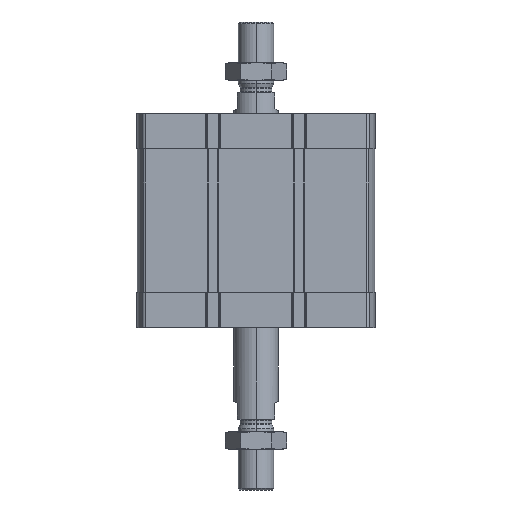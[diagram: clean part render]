
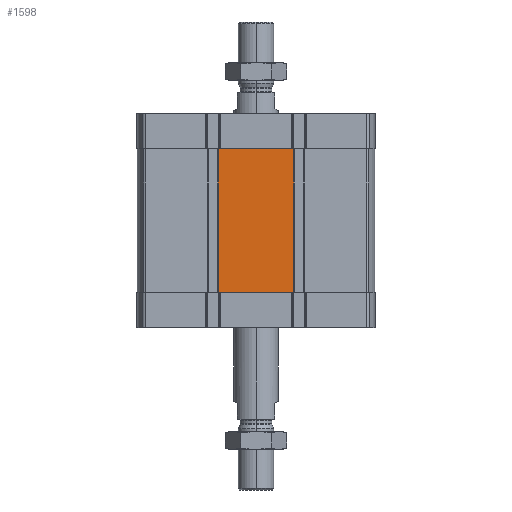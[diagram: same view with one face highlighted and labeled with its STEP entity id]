
A CAD part, left-side view. The second image highlights one B-rep face of the part: STEP entity #1598.
In plain terms, the highlighted planar face has unit normal (-1, 0, 0).
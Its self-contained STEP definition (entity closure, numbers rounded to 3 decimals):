
#43 = DIRECTION ( 'NONE',  ( 0., -1., 0. ) ) ;
#126 = EDGE_LOOP ( 'NONE', ( #3457, #10303, #18563, #12922, #2694, #9074, #15855, #17210 ) ) ;
#642 = LINE ( 'NONE', #6690, #17569 ) ;
#707 = LINE ( 'NONE', #18736, #4072 ) ;
#1169 = CARTESIAN_POINT ( 'NONE',  ( -67., 67., -20. ) ) ;
#1262 = VERTEX_POINT ( 'NONE', #11498 ) ;
#1598 = ADVANCED_FACE ( 'NONE', ( #18802 ), #2484, .T. ) ;
#1694 = EDGE_CURVE ( 'NONE', #2770, #1262, #17624, .T. ) ;
#2373 = DIRECTION ( 'NONE',  ( -1., 0., 0. ) ) ;
#2484 = PLANE ( 'NONE',  #17750 ) ;
#2694 = ORIENTED_EDGE ( 'NONE', *, *, #16303, .T. ) ;
#2770 = VERTEX_POINT ( 'NONE', #16732 ) ;
#2820 = LINE ( 'NONE', #13401, #17633 ) ;
#2863 = CARTESIAN_POINT ( 'NONE',  ( -67., -20.687, -20. ) ) ;
#3457 = ORIENTED_EDGE ( 'NONE', *, *, #12193, .F. ) ;
#3994 = LINE ( 'NONE', #16079, #4344 ) ;
#4072 = VECTOR ( 'NONE', #15766, 1000. ) ;
#4144 = VERTEX_POINT ( 'NONE', #17494 ) ;
#4261 = EDGE_CURVE ( 'NONE', #14269, #17215, #707, .T. ) ;
#4312 = VECTOR ( 'NONE', #5727, 1000. ) ;
#4344 = VECTOR ( 'NONE', #14677, 1000. ) ;
#4357 = CARTESIAN_POINT ( 'NONE',  ( -67., -21.3, -101. ) ) ;
#5352 = CARTESIAN_POINT ( 'NONE',  ( -67., 67., -101. ) ) ;
#5727 = DIRECTION ( 'NONE',  ( 0., -1., 0. ) ) ;
#5879 = DIRECTION ( 'NONE',  ( 0., -1., 0. ) ) ;
#6366 = CARTESIAN_POINT ( 'NONE',  ( -67., 67., -101. ) ) ;
#6690 = CARTESIAN_POINT ( 'NONE',  ( -67., 21.3, -101. ) ) ;
#7698 = EDGE_CURVE ( 'NONE', #4144, #14269, #14576, .T. ) ;
#8281 = VECTOR ( 'NONE', #9718, 1000. ) ;
#8750 = DIRECTION ( 'NONE',  ( 0., 0., 1. ) ) ;
#9074 = ORIENTED_EDGE ( 'NONE', *, *, #4261, .F. ) ;
#9463 = VERTEX_POINT ( 'NONE', #19411 ) ;
#9695 = VECTOR ( 'NONE', #43, 1000. ) ;
#9718 = DIRECTION ( 'NONE',  ( 0., -1., 0. ) ) ;
#10303 = ORIENTED_EDGE ( 'NONE', *, *, #1694, .T. ) ;
#10742 = VERTEX_POINT ( 'NONE', #15924 ) ;
#11498 = CARTESIAN_POINT ( 'NONE',  ( -67., 20.687, -101. ) ) ;
#11847 = LINE ( 'NONE', #1169, #4312 ) ;
#12025 = LINE ( 'NONE', #6366, #9695 ) ;
#12193 = EDGE_CURVE ( 'NONE', #2770, #9463, #642, .T. ) ;
#12922 = ORIENTED_EDGE ( 'NONE', *, *, #19427, .T. ) ;
#12999 = VECTOR ( 'NONE', #14937, 1000. ) ;
#13401 = CARTESIAN_POINT ( 'NONE',  ( -67., 21.3, -101. ) ) ;
#13456 = CARTESIAN_POINT ( 'NONE',  ( -67., 67., -101. ) ) ;
#14260 = VERTEX_POINT ( 'NONE', #4357 ) ;
#14269 = VERTEX_POINT ( 'NONE', #2863 ) ;
#14344 = DIRECTION ( 'NONE',  ( 0., 0., 1. ) ) ;
#14576 = LINE ( 'NONE', #15866, #8281 ) ;
#14677 = DIRECTION ( 'NONE',  ( 0., 0., 1. ) ) ;
#14937 = DIRECTION ( 'NONE',  ( 0., -1., 0. ) ) ;
#15462 = EDGE_CURVE ( 'NONE', #9463, #4144, #11847, .T. ) ;
#15766 = DIRECTION ( 'NONE',  ( 0., -1., 0. ) ) ;
#15855 = ORIENTED_EDGE ( 'NONE', *, *, #7698, .F. ) ;
#15866 = CARTESIAN_POINT ( 'NONE',  ( -67., 21.3, -20. ) ) ;
#15924 = CARTESIAN_POINT ( 'NONE',  ( -67., -20.687, -101. ) ) ;
#16079 = CARTESIAN_POINT ( 'NONE',  ( -67., -21.3, -101. ) ) ;
#16303 = EDGE_CURVE ( 'NONE', #14260, #17215, #3994, .T. ) ;
#16732 = CARTESIAN_POINT ( 'NONE',  ( -67., 21.3, -101. ) ) ;
#17210 = ORIENTED_EDGE ( 'NONE', *, *, #15462, .F. ) ;
#17215 = VERTEX_POINT ( 'NONE', #18850 ) ;
#17494 = CARTESIAN_POINT ( 'NONE',  ( -67., 20.687, -20. ) ) ;
#17569 = VECTOR ( 'NONE', #8750, 1000. ) ;
#17624 = LINE ( 'NONE', #13456, #12999 ) ;
#17633 = VECTOR ( 'NONE', #5879, 1000. ) ;
#17750 = AXIS2_PLACEMENT_3D ( 'NONE', #5352, #2373, #14344 ) ;
#18422 = EDGE_CURVE ( 'NONE', #1262, #10742, #2820, .T. ) ;
#18563 = ORIENTED_EDGE ( 'NONE', *, *, #18422, .T. ) ;
#18736 = CARTESIAN_POINT ( 'NONE',  ( -67., 67., -20. ) ) ;
#18802 = FACE_OUTER_BOUND ( 'NONE', #126, .T. ) ;
#18850 = CARTESIAN_POINT ( 'NONE',  ( -67., -21.3, -20. ) ) ;
#19411 = CARTESIAN_POINT ( 'NONE',  ( -67., 21.3, -20. ) ) ;
#19427 = EDGE_CURVE ( 'NONE', #10742, #14260, #12025, .T. ) ;
